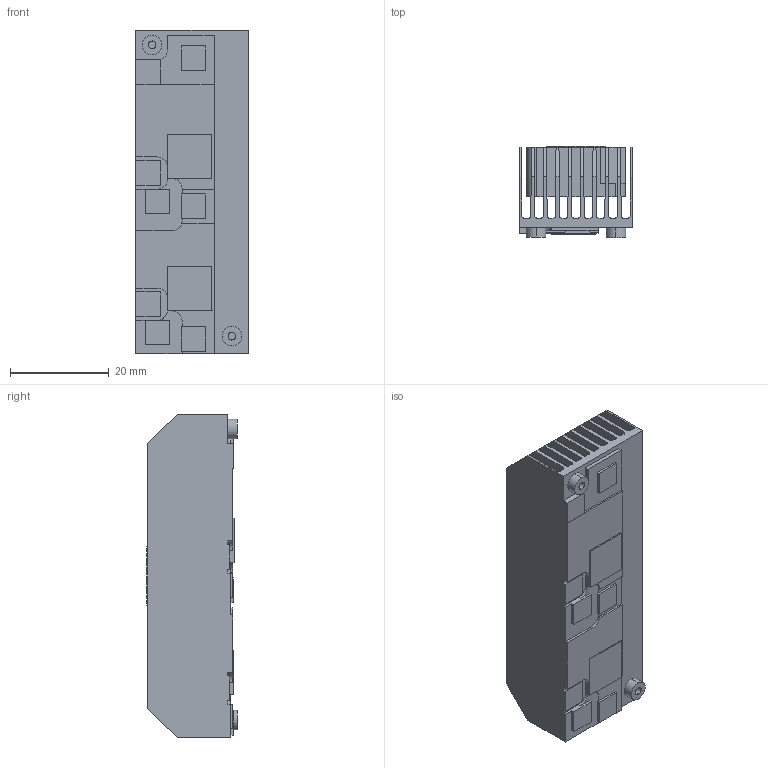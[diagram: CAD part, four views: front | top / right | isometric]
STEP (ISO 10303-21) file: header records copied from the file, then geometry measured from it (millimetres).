
FILE_DESCRIPTION((''),'2;1');
FILE_NAME('MANIFOLD_SOLID_BREP_32607','2019-07-29T',('EmmaHsu'),(''),'PRO/ENGINEER BY PARAMETRIC TECHNOLOGY CORPORATION, 2016010','PRO/ENGINEER BY PARAMETRIC TECHNOLOGY CORPORATION, 2016010','');
FILE_SCHEMA(('AUTOMOTIVE_DESIGN { 1 0 10303 214 1 1 1 1 }'));
Length unit declared in the file: millimetre
Products named in the file (1): MANIFOLD_SOLID_BREP_32607
Bounding box: 22.8 x 18.4 x 65.6 mm (x, y, z)
Volume: 10835.6 mm3; surface area: 20692.1 mm2
Topology: 1 solids, 1 shells, 299 faces, 918 edges, 580 vertices
Faces by surface type: plane 215, cylinder 84
Entity records: 13497 total; most frequent: CARTESIAN_POINT 2019, ORIENTED_EDGE 1836, DIRECTION 1681, PRESENTATION_STYLE_ASSIGNMENT 958, STYLED_ITEM 920, CURVE_STYLE 919, EDGE_CURVE 918, VECTOR 672
